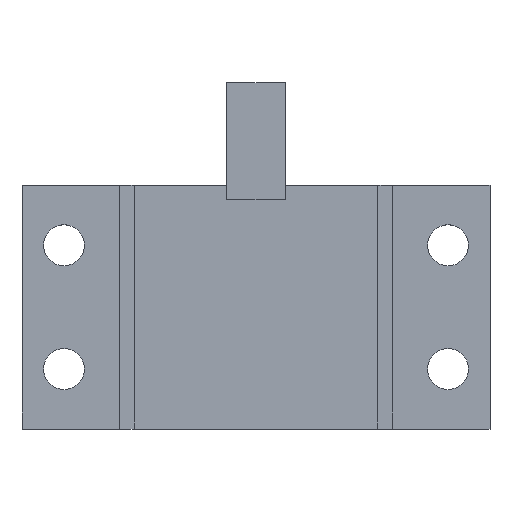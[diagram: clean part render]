
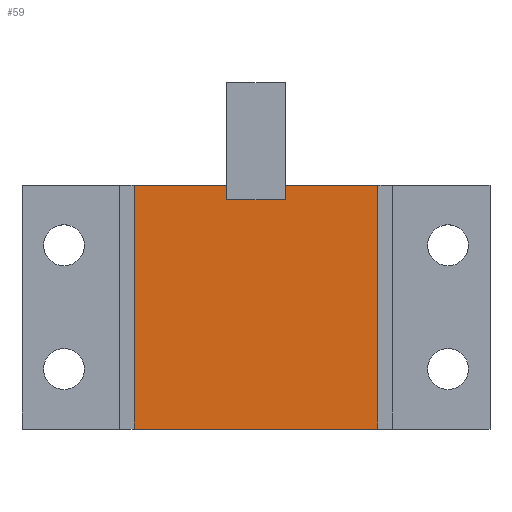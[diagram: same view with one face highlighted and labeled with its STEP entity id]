
A CAD part, top view. The second image highlights one B-rep face of the part: STEP entity #59.
In plain terms, the highlighted planar face has unit normal (0, 0, 1).
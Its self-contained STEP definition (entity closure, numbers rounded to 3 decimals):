
#59=ADVANCED_FACE('',(#276),#278,.T.);
#276=FACE_BOUND('',#277,.T.);
#277=EDGE_LOOP('',(#639,#640,#641,#642,#643,#644,#645,#646));
#278=PLANE('',#279);
#279=AXIS2_PLACEMENT_3D('',#280,#281,#282);
#280=CARTESIAN_POINT('',(0.,0.,4.9));
#281=DIRECTION('',(0.,0.,1.));
#282=DIRECTION('',(-1.,0.,0.));
#639=ORIENTED_EDGE('',*,*,#896,.T.);
#640=ORIENTED_EDGE('',*,*,#897,.T.);
#641=ORIENTED_EDGE('',*,*,#898,.T.);
#642=ORIENTED_EDGE('',*,*,#899,.F.);
#643=ORIENTED_EDGE('',*,*,#900,.F.);
#644=ORIENTED_EDGE('',*,*,#901,.F.);
#645=ORIENTED_EDGE('',*,*,#902,.T.);
#646=ORIENTED_EDGE('',*,*,#903,.T.);
#896=EDGE_CURVE('',#1058,#1059,#1060,.T.);
#897=EDGE_CURVE('',#1059,#1061,#1062,.T.);
#898=EDGE_CURVE('',#1061,#1063,#1064,.T.);
#899=EDGE_CURVE('',#1065,#1063,#1066,.T.);
#900=EDGE_CURVE('',#1067,#1065,#1068,.T.);
#901=EDGE_CURVE('',#1069,#1067,#1070,.T.);
#902=EDGE_CURVE('',#1069,#1071,#1072,.T.);
#903=EDGE_CURVE('',#1071,#1058,#1073,.T.);
#1058=VERTEX_POINT('',#1211);
#1059=VERTEX_POINT('',#1212);
#1060=LINE('',#1213,#1214);
#1061=VERTEX_POINT('',#1216);
#1062=LINE('',#1217,#1218);
#1063=VERTEX_POINT('',#1220);
#1064=LINE('',#1221,#1222);
#1065=VERTEX_POINT('',#1224);
#1066=LINE('',#1225,#1226);
#1067=VERTEX_POINT('',#1228);
#1068=LINE('',#1229,#1230);
#1069=VERTEX_POINT('',#1232);
#1070=LINE('',#1233,#1234);
#1071=VERTEX_POINT('',#1236);
#1072=LINE('',#1237,#1238);
#1073=LINE('',#1240,#1241);
#1211=CARTESIAN_POINT('',(-12.5,-12.5,4.9));
#1212=CARTESIAN_POINT('',(12.5,-12.5,4.9));
#1213=CARTESIAN_POINT('',(-12.5,-12.5,4.9));
#1214=VECTOR('',#1215,1.);
#1215=DIRECTION('',(1.,0.,0.));
#1216=CARTESIAN_POINT('',(12.5,12.5,4.9));
#1217=CARTESIAN_POINT('',(12.5,-12.5,4.9));
#1218=VECTOR('',#1219,1.);
#1219=DIRECTION('',(0.,1.,0.));
#1220=CARTESIAN_POINT('',(3.,12.5,4.9));
#1221=CARTESIAN_POINT('',(12.5,12.5,4.9));
#1222=VECTOR('',#1223,1.);
#1223=DIRECTION('',(-1.,0.,0.));
#1224=CARTESIAN_POINT('',(3.,11.,4.9));
#1225=CARTESIAN_POINT('',(3.,11.,4.9));
#1226=VECTOR('',#1227,1.);
#1227=DIRECTION('',(0.,1.,0.));
#1228=CARTESIAN_POINT('',(-3.,11.,4.9));
#1229=CARTESIAN_POINT('',(-3.,11.,4.9));
#1230=VECTOR('',#1231,1.);
#1231=DIRECTION('',(1.,0.,0.));
#1232=CARTESIAN_POINT('',(-3.,12.5,4.9));
#1233=CARTESIAN_POINT('',(-3.,12.5,4.9));
#1234=VECTOR('',#1235,1.);
#1235=DIRECTION('',(0.,-1.,0.));
#1236=CARTESIAN_POINT('',(-12.5,12.5,4.9));
#1237=CARTESIAN_POINT('',(-3.,12.5,4.9));
#1238=VECTOR('',#1239,1.);
#1239=DIRECTION('',(-1.,0.,0.));
#1240=CARTESIAN_POINT('',(-12.5,12.5,4.9));
#1241=VECTOR('',#1242,1.);
#1242=DIRECTION('',(0.,-1.,0.));
